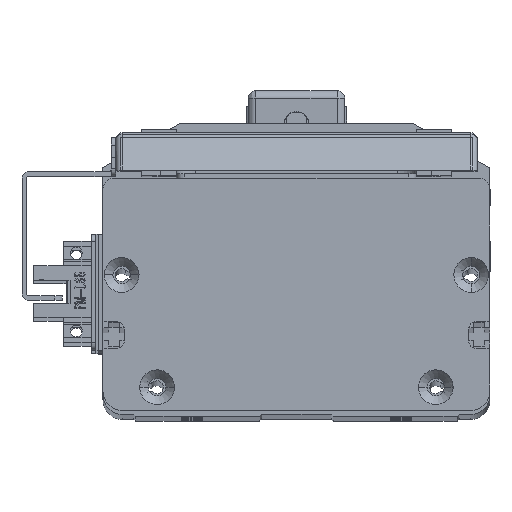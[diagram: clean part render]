
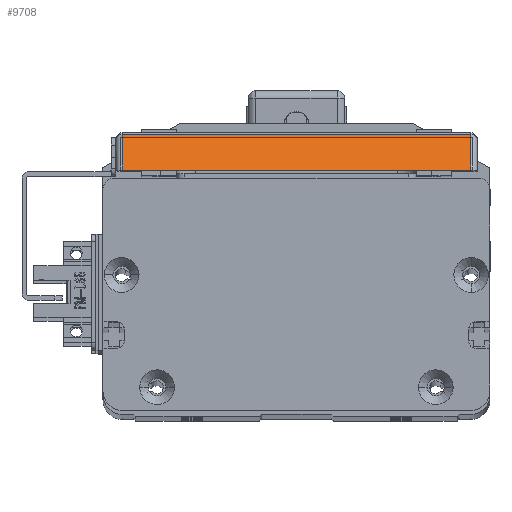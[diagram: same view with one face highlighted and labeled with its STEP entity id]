
A CAD part, top view. The second image highlights one B-rep face of the part: STEP entity #9708.
In plain terms, the highlighted planar face has unit normal (0, 0.707, 0.707) as drawn and (-0.707, 0, -0.707) by its records, which use the part's own axes.
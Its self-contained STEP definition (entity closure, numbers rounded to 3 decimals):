
#429 = VERTEX_POINT ( 'NONE', #8801 ) ;
#1656 = ORIENTED_EDGE ( 'NONE', *, *, #17810, .T. ) ;
#2498 = DIRECTION ( 'NONE',  ( -0.707, 0., 0.707 ) ) ;
#6487 = EDGE_LOOP ( 'NONE', ( #16730, #9178, #1656, #22328 ) ) ;
#7206 = DIRECTION ( 'NONE',  ( 0.707, 0., -0.707 ) ) ;
#7467 = LINE ( 'NONE', #18599, #31288 ) ;
#8801 = CARTESIAN_POINT ( 'NONE',  ( -66.5, 91.7, 4.1 ) ) ;
#9178 = ORIENTED_EDGE ( 'NONE', *, *, #48465, .T. ) ;
#9708 = ADVANCED_FACE ( 'NONE', ( #56374 ), #55196, .T. ) ;
#10682 = EDGE_CURVE ( 'NONE', #34951, #52230, #36613, .T. ) ;
#13105 = DIRECTION ( 'NONE',  ( 0., 1., 0. ) ) ;
#16730 = ORIENTED_EDGE ( 'NONE', *, *, #18140, .T. ) ;
#17767 = LINE ( 'NONE', #37797, #58946 ) ;
#17810 = EDGE_CURVE ( 'NONE', #429, #34951, #17767, .T. ) ;
#18140 = EDGE_CURVE ( 'NONE', #52230, #62809, #47357, .T. ) ;
#18599 = CARTESIAN_POINT ( 'NONE',  ( -66.5, 93.4, 4.1 ) ) ;
#19376 = VECTOR ( 'NONE', #22082, 1000. ) ;
#20740 = AXIS2_PLACEMENT_3D ( 'NONE', #42801, #23685, #2498 ) ;
#22082 = DIRECTION ( 'NONE',  ( -0.707, 0., 0.707 ) ) ;
#22187 = DIRECTION ( 'NONE',  ( 0., -1., 0. ) ) ;
#22328 = ORIENTED_EDGE ( 'NONE', *, *, #10682, .T. ) ;
#23685 = DIRECTION ( 'NONE',  ( -0.707, 0., -0.707 ) ) ;
#27815 = CARTESIAN_POINT ( 'NONE',  ( -68., 1.7, 5.6 ) ) ;
#31288 = VECTOR ( 'NONE', #13105, 1000. ) ;
#34951 = VERTEX_POINT ( 'NONE', #48421 ) ;
#36613 = LINE ( 'NONE', #64946, #62159 ) ;
#37797 = CARTESIAN_POINT ( 'NONE',  ( -68., 91.7, 5.6 ) ) ;
#39508 = CARTESIAN_POINT ( 'NONE',  ( -57.298, 1.7, -5.102 ) ) ;
#42801 = CARTESIAN_POINT ( 'NONE',  ( -68., 93.4, 5.6 ) ) ;
#47357 = LINE ( 'NONE', #27815, #19376 ) ;
#48421 = CARTESIAN_POINT ( 'NONE',  ( -57.298, 91.7, -5.102 ) ) ;
#48465 = EDGE_CURVE ( 'NONE', #62809, #429, #7467, .T. ) ;
#52230 = VERTEX_POINT ( 'NONE', #39508 ) ;
#52248 = CARTESIAN_POINT ( 'NONE',  ( -66.5, 1.7, 4.1 ) ) ;
#55196 = PLANE ( 'NONE',  #20740 ) ;
#56374 = FACE_OUTER_BOUND ( 'NONE', #6487, .T. ) ;
#58946 = VECTOR ( 'NONE', #7206, 1000. ) ;
#62159 = VECTOR ( 'NONE', #22187, 1000. ) ;
#62809 = VERTEX_POINT ( 'NONE', #52248 ) ;
#64946 = CARTESIAN_POINT ( 'NONE',  ( -57.298, 93.4, -5.102 ) ) ;
